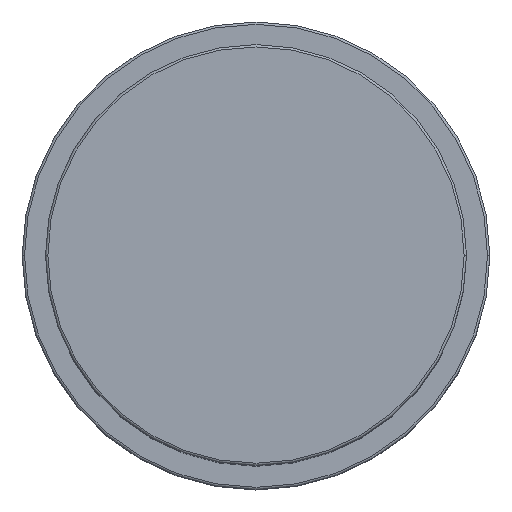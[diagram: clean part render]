
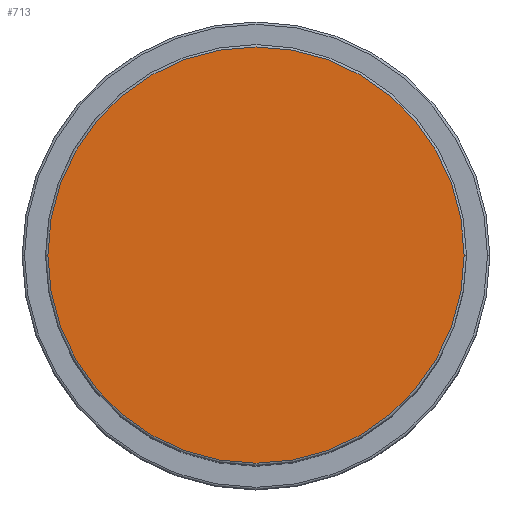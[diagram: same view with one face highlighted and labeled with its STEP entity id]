
A CAD part, top view. The second image highlights one B-rep face of the part: STEP entity #713.
In plain terms, the highlighted planar face has unit normal (0, 0, 1).
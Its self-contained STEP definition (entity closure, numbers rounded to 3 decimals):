
#141 = VERTEX_POINT ( 'NONE', #959 ) ;
#177 = DIRECTION ( 'NONE',  ( 1., 0., 0. ) ) ;
#260 = AXIS2_PLACEMENT_3D ( 'NONE', #304, #1213, #573 ) ;
#295 = CARTESIAN_POINT ( 'NONE',  ( 0., 0., 112. ) ) ;
#304 = CARTESIAN_POINT ( 'NONE',  ( 0., 0., 112. ) ) ;
#373 = EDGE_CURVE ( 'NONE', #1310, #141, #375, .T. ) ;
#375 = CIRCLE ( 'NONE', #952, 44.5 ) ;
#573 = DIRECTION ( 'NONE',  ( 1., 0., 0. ) ) ;
#713 = ADVANCED_FACE ( 'NONE', ( #1023 ), #1102, .T. ) ;
#716 = EDGE_LOOP ( 'NONE', ( #1424, #1569 ) ) ;
#853 = CARTESIAN_POINT ( 'NONE',  ( -44.5, 0., 112. ) ) ;
#900 = CARTESIAN_POINT ( 'NONE',  ( 0., 0., 112. ) ) ;
#952 = AXIS2_PLACEMENT_3D ( 'NONE', #900, #1259, #1495 ) ;
#959 = CARTESIAN_POINT ( 'NONE',  ( 44.5, 0., 112. ) ) ;
#1023 = FACE_OUTER_BOUND ( 'NONE', #716, .T. ) ;
#1102 = PLANE ( 'NONE',  #260 ) ;
#1154 = AXIS2_PLACEMENT_3D ( 'NONE', #295, #1217, #177 ) ;
#1200 = EDGE_CURVE ( 'NONE', #141, #1310, #1411, .T. ) ;
#1213 = DIRECTION ( 'NONE',  ( 0., 0., 1. ) ) ;
#1217 = DIRECTION ( 'NONE',  ( 0., 0., 1. ) ) ;
#1259 = DIRECTION ( 'NONE',  ( 0., 0., 1. ) ) ;
#1310 = VERTEX_POINT ( 'NONE', #853 ) ;
#1411 = CIRCLE ( 'NONE', #1154, 44.5 ) ;
#1424 = ORIENTED_EDGE ( 'NONE', *, *, #1200, .T. ) ;
#1495 = DIRECTION ( 'NONE',  ( 1., 0., 0. ) ) ;
#1569 = ORIENTED_EDGE ( 'NONE', *, *, #373, .T. ) ;
